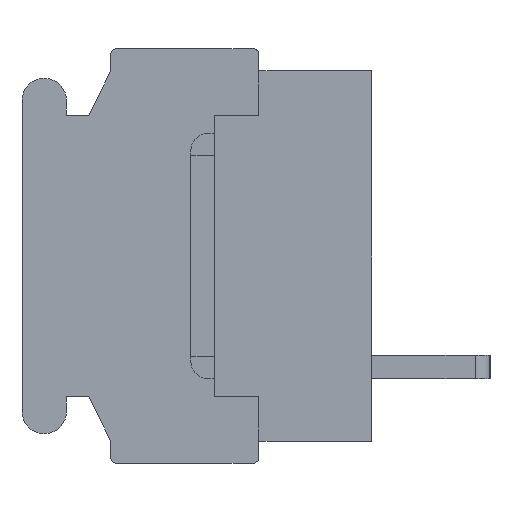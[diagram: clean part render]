
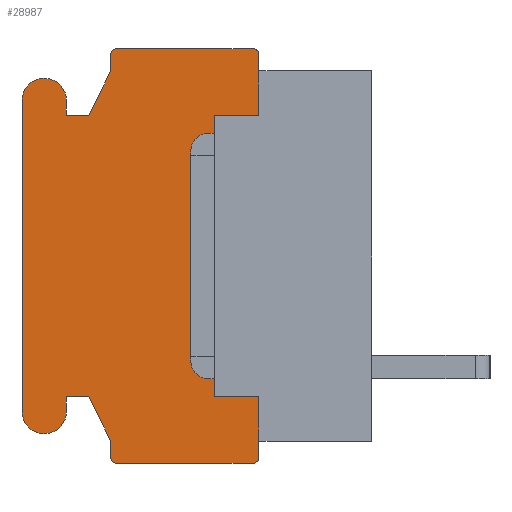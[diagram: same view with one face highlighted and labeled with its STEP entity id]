
A CAD part, left-side view. The second image highlights one B-rep face of the part: STEP entity #28987.
In plain terms, the highlighted planar face has unit normal (-1, 0, 0).
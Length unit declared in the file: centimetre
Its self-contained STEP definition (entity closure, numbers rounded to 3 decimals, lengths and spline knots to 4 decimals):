
#1662=PLANE('',#47625);
#2413=VECTOR('',#30397,1.);
#4458=VECTOR('',#34815,1.);
#4459=VECTOR('',#34816,1.);
#4460=VECTOR('',#34819,1.);
#4461=VECTOR('',#34822,1.);
#4462=VECTOR('',#34823,1.);
#4463=VECTOR('',#34824,1.);
#4464=VECTOR('',#34825,1.);
#4465=VECTOR('',#34828,1.);
#4466=VECTOR('',#34831,1.);
#4467=VECTOR('',#34832,1.);
#4468=VECTOR('',#34833,1.);
#4469=VECTOR('',#34834,1.);
#4470=VECTOR('',#34837,1.);
#4471=VECTOR('',#34840,1.);
#4472=VECTOR('',#34841,1.);
#4473=VECTOR('',#34842,1.);
#4474=VECTOR('',#34843,1.);
#5505=LINE('',#37626,#2413);
#7550=LINE('',#44147,#4458);
#7551=LINE('',#44149,#4459);
#7552=LINE('',#44153,#4460);
#7553=LINE('',#44157,#4461);
#7554=LINE('',#44159,#4462);
#7555=LINE('',#44161,#4463);
#7556=LINE('',#44163,#4464);
#7557=LINE('',#44167,#4465);
#7558=LINE('',#44171,#4466);
#7559=LINE('',#44173,#4467);
#7560=LINE('',#44175,#4468);
#7561=LINE('',#44177,#4469);
#7562=LINE('',#44181,#4470);
#7563=LINE('',#44185,#4471);
#7564=LINE('',#44186,#4472);
#7565=LINE('',#44188,#4473);
#7566=LINE('',#44189,#4474);
#8538=VERTEX_POINT('',#37627);
#8539=VERTEX_POINT('',#37628);
#8639=VERTEX_POINT('',#37903);
#8698=VERTEX_POINT('',#38026);
#10438=VERTEX_POINT('',#44148);
#10439=VERTEX_POINT('',#44150);
#10440=VERTEX_POINT('',#44152);
#10441=VERTEX_POINT('',#44154);
#10442=VERTEX_POINT('',#44156);
#10443=VERTEX_POINT('',#44158);
#10444=VERTEX_POINT('',#44160);
#10445=VERTEX_POINT('',#44162);
#10446=VERTEX_POINT('',#44164);
#10447=VERTEX_POINT('',#44166);
#10448=VERTEX_POINT('',#44168);
#10449=VERTEX_POINT('',#44170);
#10450=VERTEX_POINT('',#44172);
#10451=VERTEX_POINT('',#44174);
#10452=VERTEX_POINT('',#44176);
#10453=VERTEX_POINT('',#44178);
#10454=VERTEX_POINT('',#44180);
#10455=VERTEX_POINT('',#44182);
#10456=VERTEX_POINT('',#44184);
#10457=VERTEX_POINT('',#44187);
#11406=CIRCLE('',#47626,0.02);
#11407=CIRCLE('',#47627,0.02);
#11408=CIRCLE('',#47628,0.075);
#11409=CIRCLE('',#47629,0.075);
#11410=CIRCLE('',#47630,0.02);
#11411=CIRCLE('',#47631,0.02);
#12220=EDGE_CURVE('',#8538,#8539,#5505,.T.);
#15115=EDGE_CURVE('',#10438,#8639,#7550,.T.);
#15116=EDGE_CURVE('',#10439,#8639,#7551,.T.);
#15117=EDGE_CURVE('',#10440,#10439,#11406,.T.);
#15118=EDGE_CURVE('',#10441,#10440,#7552,.T.);
#15119=EDGE_CURVE('',#10442,#10441,#11407,.T.);
#15120=EDGE_CURVE('',#10443,#10442,#7553,.T.);
#15121=EDGE_CURVE('',#10444,#10443,#7554,.T.);
#15122=EDGE_CURVE('',#10445,#10444,#7555,.T.);
#15123=EDGE_CURVE('',#10446,#10445,#7556,.T.);
#15124=EDGE_CURVE('',#10447,#10446,#11408,.T.);
#15125=EDGE_CURVE('',#10448,#10447,#7557,.T.);
#15126=EDGE_CURVE('',#10449,#10448,#11409,.T.);
#15127=EDGE_CURVE('',#10450,#10449,#7558,.T.);
#15128=EDGE_CURVE('',#10451,#10450,#7559,.T.);
#15129=EDGE_CURVE('',#10452,#10451,#7560,.T.);
#15130=EDGE_CURVE('',#10453,#10452,#7561,.T.);
#15131=EDGE_CURVE('',#10454,#10453,#11410,.T.);
#15132=EDGE_CURVE('',#10455,#10454,#7562,.T.);
#15133=EDGE_CURVE('',#10456,#10455,#11411,.T.);
#15134=EDGE_CURVE('',#8698,#10456,#7563,.T.);
#15135=EDGE_CURVE('',#8698,#10457,#7564,.T.);
#15136=EDGE_CURVE('',#10457,#8538,#7565,.T.);
#15137=EDGE_CURVE('',#8539,#10438,#7566,.T.);
#23039=ORIENTED_EDGE('',*,*,#15115,.T.);
#23040=ORIENTED_EDGE('',*,*,#15116,.F.);
#23041=ORIENTED_EDGE('',*,*,#15117,.F.);
#23042=ORIENTED_EDGE('',*,*,#15118,.F.);
#23043=ORIENTED_EDGE('',*,*,#15119,.F.);
#23044=ORIENTED_EDGE('',*,*,#15120,.F.);
#23045=ORIENTED_EDGE('',*,*,#15121,.F.);
#23046=ORIENTED_EDGE('',*,*,#15122,.F.);
#23047=ORIENTED_EDGE('',*,*,#15123,.F.);
#23048=ORIENTED_EDGE('',*,*,#15124,.F.);
#23049=ORIENTED_EDGE('',*,*,#15125,.F.);
#23050=ORIENTED_EDGE('',*,*,#15126,.F.);
#23051=ORIENTED_EDGE('',*,*,#15127,.F.);
#23052=ORIENTED_EDGE('',*,*,#15128,.F.);
#23053=ORIENTED_EDGE('',*,*,#15129,.F.);
#23054=ORIENTED_EDGE('',*,*,#15130,.F.);
#23055=ORIENTED_EDGE('',*,*,#15131,.F.);
#23056=ORIENTED_EDGE('',*,*,#15132,.F.);
#23057=ORIENTED_EDGE('',*,*,#15133,.F.);
#23058=ORIENTED_EDGE('',*,*,#15134,.F.);
#23059=ORIENTED_EDGE('',*,*,#15135,.T.);
#23060=ORIENTED_EDGE('',*,*,#15136,.T.);
#23061=ORIENTED_EDGE('',*,*,#12220,.T.);
#23062=ORIENTED_EDGE('',*,*,#15137,.T.);
#25675=EDGE_LOOP('',(#23039,#23040,#23041,#23042,#23043,#23044,#23045,#23046,
#23047,#23048,#23049,#23050,#23051,#23052,#23053,#23054,#23055,#23056,#23057,
#23058,#23059,#23060,#23061,#23062));
#27385=FACE_BOUND('',#25675,.T.);
#28987=ADVANCED_FACE('',(#27385),#1662,.F.);
#30397=DIRECTION('',(0.,0.,1.));
#34814=DIRECTION('',(1.,0.,0.));
#34815=DIRECTION('',(0.,0.,1.));
#34816=DIRECTION('',(0.,0.,-1.));
#34817=DIRECTION('',(1.,0.,0.));
#34818=DIRECTION('',(0.,0.,-0.02));
#34819=DIRECTION('',(0.,-1.,0.));
#34820=DIRECTION('',(1.,0.,0.));
#34821=DIRECTION('',(0.,0.,-0.02));
#34822=DIRECTION('',(0.,0.,1.));
#34823=DIRECTION('',(0.,-0.447,0.894));
#34824=DIRECTION('',(0.,-1.,0.));
#34825=DIRECTION('',(0.,0.,-1.));
#34826=DIRECTION('',(1.,0.,0.));
#34827=DIRECTION('',(0.,0.,-0.075));
#34828=DIRECTION('',(0.,0.,1.));
#34829=DIRECTION('',(1.,0.,0.));
#34830=DIRECTION('',(0.,0.,-0.075));
#34831=DIRECTION('',(0.,0.,-1.));
#34832=DIRECTION('',(0.,1.,0.));
#34833=DIRECTION('',(0.,0.447,0.894));
#34834=DIRECTION('',(0.,0.,1.));
#34835=DIRECTION('',(1.,0.,0.));
#34836=DIRECTION('',(0.,0.,-0.02));
#34837=DIRECTION('',(0.,1.,0.));
#34838=DIRECTION('',(1.,0.,0.));
#34839=DIRECTION('',(0.,0.,-0.02));
#34840=DIRECTION('',(0.,0.,-1.));
#34841=DIRECTION('',(0.,0.,1.));
#34842=DIRECTION('',(0.,1.,0.));
#34843=DIRECTION('',(0.,-1.,0.));
#37626=CARTESIAN_POINT('',(-0.762,0.53,0.));
#37627=CARTESIAN_POINT('',(-0.762,0.53,-0.475));
#37628=CARTESIAN_POINT('',(-0.762,0.53,0.475));
#37903=CARTESIAN_POINT('',(-0.762,0.38,0.625));
#38026=CARTESIAN_POINT('',(-0.762,0.38,-0.625));
#44146=CARTESIAN_POINT('',(-0.762,0.6059,0.));
#44147=CARTESIAN_POINT('',(-0.762,0.38,0.275));
#44148=CARTESIAN_POINT('',(-0.762,0.38,0.475));
#44149=CARTESIAN_POINT('',(-0.762,0.38,0.68));
#44150=CARTESIAN_POINT('',(-0.762,0.38,0.68));
#44151=CARTESIAN_POINT('',(-0.762,0.4,0.68));
#44152=CARTESIAN_POINT('',(-0.762,0.4,0.7));
#44153=CARTESIAN_POINT('',(-0.762,0.86,0.7));
#44154=CARTESIAN_POINT('',(-0.762,0.86,0.7));
#44155=CARTESIAN_POINT('',(-0.762,0.86,0.68));
#44156=CARTESIAN_POINT('',(-0.762,0.88,0.68));
#44157=CARTESIAN_POINT('',(-0.762,0.88,0.625));
#44158=CARTESIAN_POINT('',(-0.762,0.88,0.625));
#44159=CARTESIAN_POINT('',(-0.762,0.955,0.475));
#44160=CARTESIAN_POINT('',(-0.762,0.955,0.475));
#44161=CARTESIAN_POINT('',(-0.762,1.03,0.475));
#44162=CARTESIAN_POINT('',(-0.762,1.03,0.475));
#44163=CARTESIAN_POINT('',(-0.762,1.03,0.525));
#44164=CARTESIAN_POINT('',(-0.762,1.03,0.525));
#44165=CARTESIAN_POINT('',(-0.762,1.105,0.525));
#44166=CARTESIAN_POINT('',(-0.762,1.18,0.525));
#44167=CARTESIAN_POINT('',(-0.762,1.18,-0.525));
#44168=CARTESIAN_POINT('',(-0.762,1.18,-0.525));
#44169=CARTESIAN_POINT('',(-0.762,1.105,-0.525));
#44170=CARTESIAN_POINT('',(-0.762,1.03,-0.525));
#44171=CARTESIAN_POINT('',(-0.762,1.03,-0.475));
#44172=CARTESIAN_POINT('',(-0.762,1.03,-0.475));
#44173=CARTESIAN_POINT('',(-0.762,0.955,-0.475));
#44174=CARTESIAN_POINT('',(-0.762,0.955,-0.475));
#44175=CARTESIAN_POINT('',(-0.762,0.88,-0.625));
#44176=CARTESIAN_POINT('',(-0.762,0.88,-0.625));
#44177=CARTESIAN_POINT('',(-0.762,0.88,-0.68));
#44178=CARTESIAN_POINT('',(-0.762,0.88,-0.68));
#44179=CARTESIAN_POINT('',(-0.762,0.86,-0.68));
#44180=CARTESIAN_POINT('',(-0.762,0.86,-0.7));
#44181=CARTESIAN_POINT('',(-0.762,0.4,-0.7));
#44182=CARTESIAN_POINT('',(-0.762,0.4,-0.7));
#44183=CARTESIAN_POINT('',(-0.762,0.4,-0.68));
#44184=CARTESIAN_POINT('',(-0.762,0.38,-0.68));
#44185=CARTESIAN_POINT('',(-0.762,0.38,-0.625));
#44186=CARTESIAN_POINT('',(-0.762,0.38,-0.275));
#44187=CARTESIAN_POINT('',(-0.762,0.38,-0.475));
#44188=CARTESIAN_POINT('',(-0.762,0.5304,-0.475));
#44189=CARTESIAN_POINT('',(-0.762,0.5304,0.475));
#47625=AXIS2_PLACEMENT_3D('',#44146,#34814,$);
#47626=AXIS2_PLACEMENT_3D('',#44151,#34817,#34818);
#47627=AXIS2_PLACEMENT_3D('',#44155,#34820,#34821);
#47628=AXIS2_PLACEMENT_3D('',#44165,#34826,#34827);
#47629=AXIS2_PLACEMENT_3D('',#44169,#34829,#34830);
#47630=AXIS2_PLACEMENT_3D('',#44179,#34835,#34836);
#47631=AXIS2_PLACEMENT_3D('',#44183,#34838,#34839);
